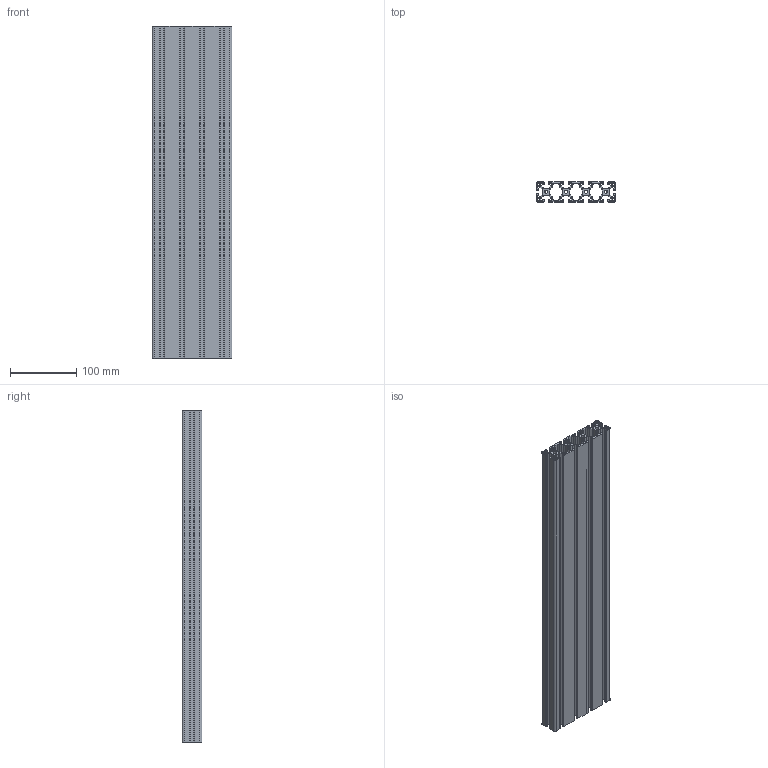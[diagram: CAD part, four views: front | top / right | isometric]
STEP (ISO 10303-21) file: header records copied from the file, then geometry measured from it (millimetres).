
FILE_DESCRIPTION (( 'STEP AP203' ), '1' );
FILE_NAME ('PP3080-500-Rollco.step', '2026-05-04T07:39:11', ( '' ), ( '' ), 'SwSTEP 2.0', 'SolidWorks 2014', '' );
FILE_SCHEMA (( 'CONFIG_CONTROL_DESIGN' ));
Length unit declared in the file: millimetre
Products named in the file (1): PP3080-500-Rollco
Bounding box: 120 x 30 x 500 mm (x, y, z)
Volume: 582473.1 mm3; surface area: 508025.7 mm2
Topology: 1 solids, 1 shells, 402 faces, 1200 edges, 800 vertices
Faces by surface type: cylinder 204, plane 198
Entity records: 13753 total; most frequent: DIRECTION 2414, CARTESIAN_POINT 2403, ORIENTED_EDGE 2400, EDGE_CURVE 1200, AXIS2_PLACEMENT_3D 811, VERTEX_POINT 800, LINE 792, VECTOR 792
